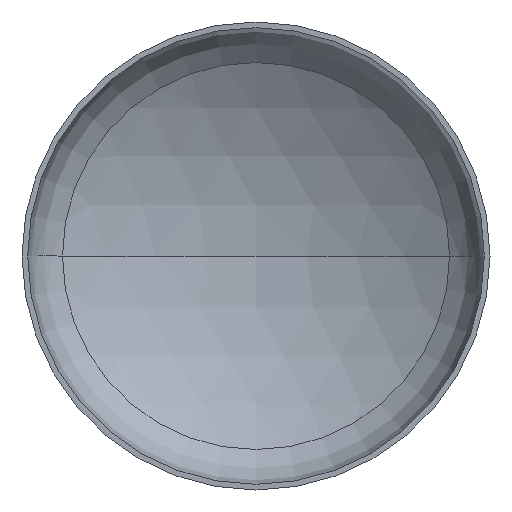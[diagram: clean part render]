
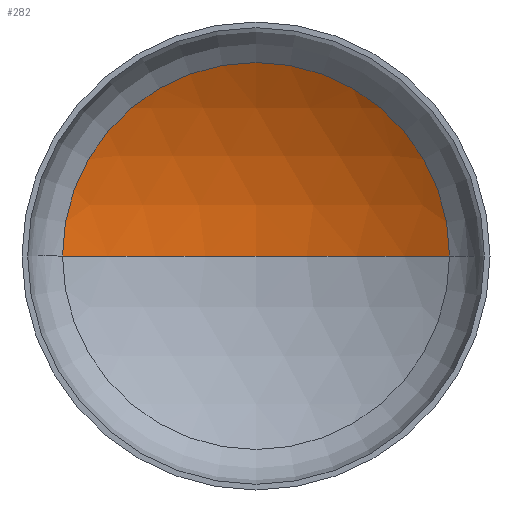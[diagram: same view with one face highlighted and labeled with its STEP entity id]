
A CAD part, front view. The second image highlights one B-rep face of the part: STEP entity #282.
In plain terms, the highlighted spherical face has radius 3040 mm.
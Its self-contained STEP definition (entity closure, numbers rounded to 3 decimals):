
#29 = CARTESIAN_POINT ( 'NONE',  ( 0., 1078.414, 0. ) ) ;
#30 = VERTEX_POINT ( 'NONE', #171 ) ;
#42 = AXIS2_PLACEMENT_3D ( 'NONE', #265, #310, #178 ) ;
#48 = CIRCLE ( 'NONE', #53, 3040. ) ;
#53 = AXIS2_PLACEMENT_3D ( 'NONE', #259, #226, #146 ) ;
#57 = AXIS2_PLACEMENT_3D ( 'NONE', #62, #228, #374 ) ;
#62 = CARTESIAN_POINT ( 'NONE',  ( 0., -1961.586, 0. ) ) ;
#68 = VERTEX_POINT ( 'NONE', #219 ) ;
#69 = AXIS2_PLACEMENT_3D ( 'NONE', #328, #201, #350 ) ;
#77 = VERTEX_POINT ( 'NONE', #29 ) ;
#80 = EDGE_LOOP ( 'NONE', ( #109, #407, #98 ) ) ;
#86 = CIRCLE ( 'NONE', #69, 1571.389 ) ;
#98 = ORIENTED_EDGE ( 'NONE', *, *, #220, .T. ) ;
#109 = ORIENTED_EDGE ( 'NONE', *, *, #250, .F. ) ;
#146 = DIRECTION ( 'NONE',  ( 1., 0., 0. ) ) ;
#171 = CARTESIAN_POINT ( 'NONE',  ( -1571.389, 640.785, 0. ) ) ;
#178 = DIRECTION ( 'NONE',  ( -1., 0., 0. ) ) ;
#187 = FACE_OUTER_BOUND ( 'NONE', #80, .T. ) ;
#194 = SPHERICAL_SURFACE ( 'NONE', #42, 3040. ) ;
#201 = DIRECTION ( 'NONE',  ( 0., -1., 0. ) ) ;
#219 = CARTESIAN_POINT ( 'NONE',  ( 1571.389, 640.785, 0. ) ) ;
#220 = EDGE_CURVE ( 'NONE', #68, #30, #86, .T. ) ;
#226 = DIRECTION ( 'NONE',  ( 0., 0., 1. ) ) ;
#228 = DIRECTION ( 'NONE',  ( 0., 0., -1. ) ) ;
#241 = EDGE_CURVE ( 'NONE', #77, #68, #371, .T. ) ;
#250 = EDGE_CURVE ( 'NONE', #77, #30, #48, .T. ) ;
#259 = CARTESIAN_POINT ( 'NONE',  ( 0., -1961.586, 0. ) ) ;
#265 = CARTESIAN_POINT ( 'NONE',  ( 0., -1961.586, 0. ) ) ;
#282 = ADVANCED_FACE ( 'NONE', ( #187 ), #194, .F. ) ;
#310 = DIRECTION ( 'NONE',  ( 0., 0., -1. ) ) ;
#328 = CARTESIAN_POINT ( 'NONE',  ( 0., 640.785, 0. ) ) ;
#350 = DIRECTION ( 'NONE',  ( 1., 0., 0. ) ) ;
#371 = CIRCLE ( 'NONE', #57, 3040. ) ;
#374 = DIRECTION ( 'NONE',  ( -1., 0., 0. ) ) ;
#407 = ORIENTED_EDGE ( 'NONE', *, *, #241, .T. ) ;
